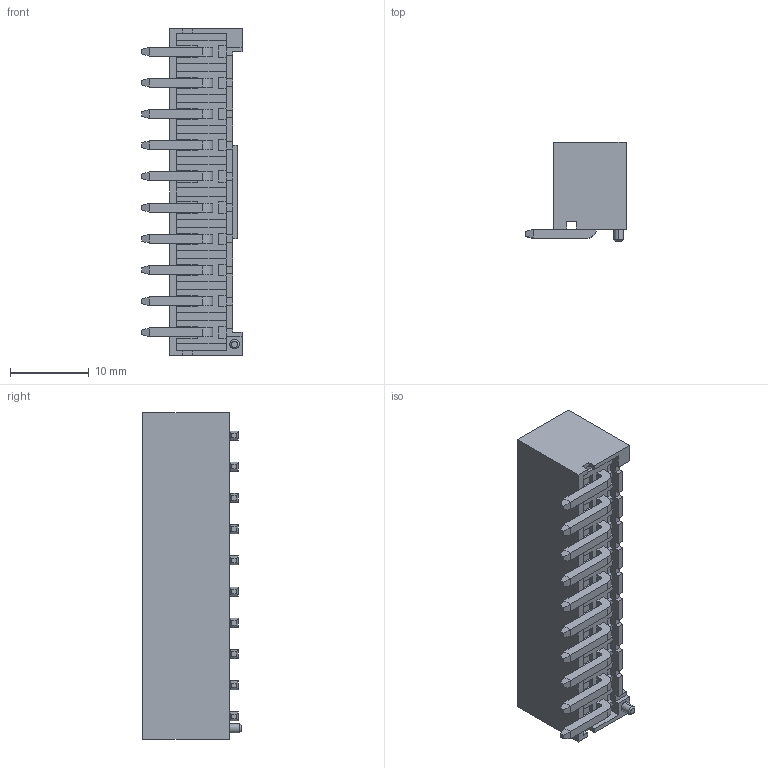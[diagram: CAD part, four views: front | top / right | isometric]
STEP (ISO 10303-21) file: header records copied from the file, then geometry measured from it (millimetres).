
FILE_DESCRIPTION (( 'STEP AP214' ), '1' );
FILE_NAME ('HC-VHH-10AW-05 (3.96 单排 平弯针 带柱 座高11mm-HCTL).STEP', '2025-05-16T02:51:48', ( '' ), ( '' ), 'SwSTEP 2.0', 'SolidWorks 2022', '' );
FILE_SCHEMA (( 'AUTOMOTIVE_DESIGN' ));
Length unit declared in the file: millimetre
Products named in the file (1): HC-VHH-10AW-05 (3.96 单排 平弯针 带柱 座高11mm-HCTL)
Bounding box: 12.7 x 12.5 x 41.48 mm (x, y, z)
Volume: 1752.7 mm3; surface area: 3470 mm2
Topology: 1 solids, 1 shells, 451 faces, 1214 edges, 766 vertices
Faces by surface type: plane 427, cylinder 22, cone 2
Entity records: 13768 total; most frequent: CARTESIAN_POINT 2432, ORIENTED_EDGE 2428, DIRECTION 2164, EDGE_CURVE 1214, VECTOR 1168, LINE 1168, VERTEX_POINT 766, AXIS2_PLACEMENT_3D 498
